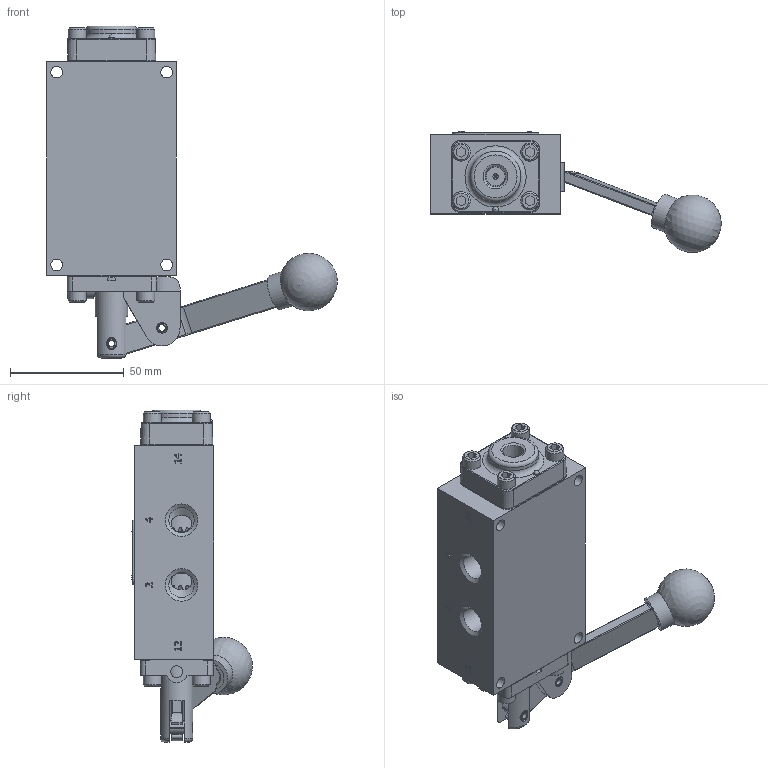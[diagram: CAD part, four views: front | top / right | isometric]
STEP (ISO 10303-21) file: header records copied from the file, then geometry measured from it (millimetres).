
FILE_DESCRIPTION(/* description */ (''),/* implementation_level */ '2;1');
FILE_NAME(/* name */ 'D:\Engineering\Product\valves\Assembly\lever\HR\stp\HR2BLRT.stp',/* time_stamp */ '2023-03-22T14:03:29-04:00',/* author */ ('RMcKenna'),/* organization */ (''),/* preprocessor_version */ 'ST-DEVELOPER v18.1',/* originating_system */ 'Autodesk Inventor 2021',/* authorisation */ '');
FILE_SCHEMA (('AUTOMOTIVE_DESIGN { 1 0 10303 214 3 1 1 }'));
Length unit declared in the file: centimetre
Products named in the file (1): Part55
Bounding box: 128 x 53.25 x 146.21 mm (x, y, z)
Volume: 206207.2 mm3; surface area: 61101.7 mm2
Topology: 1 solids, 31 shells, 1228 faces, 3020 edges, 1923 vertices
Faces by surface type: plane 539, cone 262, cylinder 222, bspline 102, torus 99, sphere 4
Full cylindrical faces by diameter (mm): 1.016 x1, 2.07 x2, 2.261 x2, 2.362 x2, 2.381 x2, 2.778 x2, 3.175 x2, 3.683 x10, 3.912 x3, 4.75 x2, 4.763 x2, 4.826 x8, 4.978 x4, 5.055 x1, 5.156 x12, 5.283 x1, 7.798 x1, 7.938 x8, 9.922 x2, 11.113 x6, 11.303 x2, 14.275 x1, 14.986 x1, 15.748 x1, 18.618 x1, 18.745 x12, 19.177 x2, 23.825 x6
Entity records: 40968 total; most frequent: CARTESIAN_POINT 11211, ORIENTED_EDGE 5996, DIRECTION 5672, EDGE_CURVE 2998, AXIS2_PLACEMENT_3D 2070, VERTEX_POINT 1923, LINE 1532, VECTOR 1532
